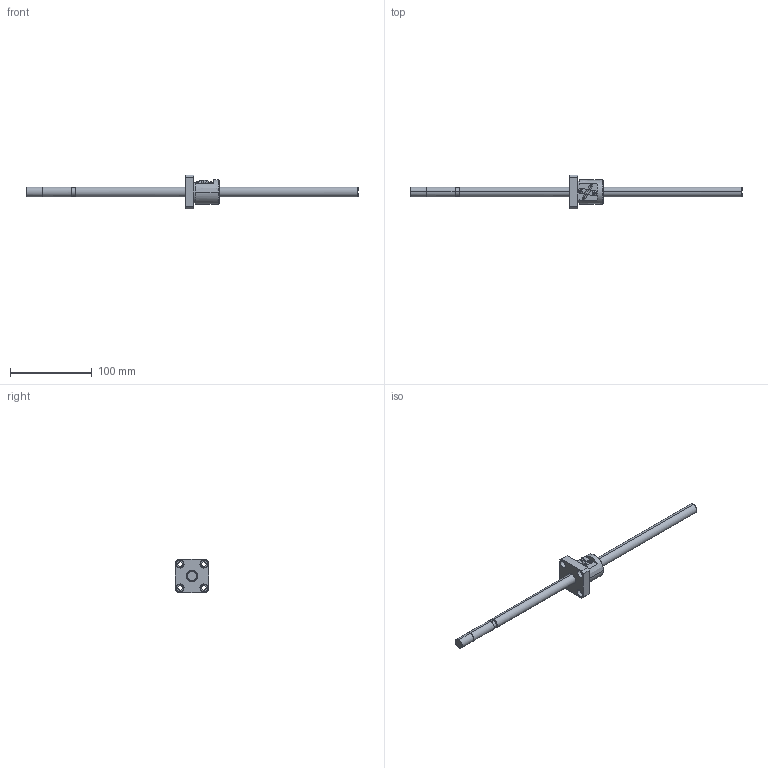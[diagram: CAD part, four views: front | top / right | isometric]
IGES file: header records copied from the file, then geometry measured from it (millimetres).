
Global section: file name: No Iges File Name specified; native system: AutoDesk Inventor R10; preprocessor: AutoDesk Inventor Iges Exporter R10; author: No Author specified; organization: No Organization specified; date: 20101224.140034; units: millimetre
Bounding box: 405 x 41 x 41 mm (x, y, z)
Surface area: 25916.3 mm2 (no closed solid volume)
Topology: 0 solids, 0 shells, 124 faces, 916 edges, 916 vertices
Faces by surface type: bspline 124
